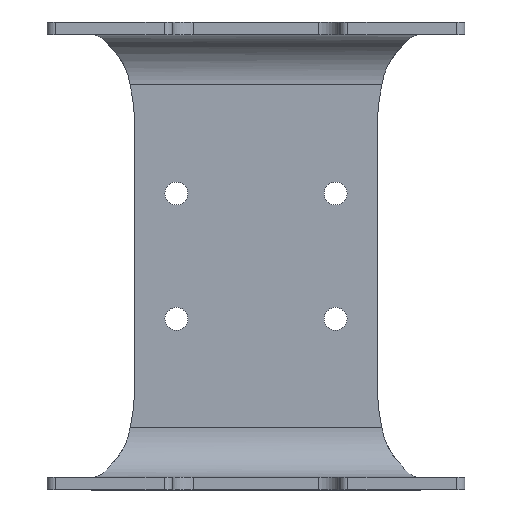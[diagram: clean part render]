
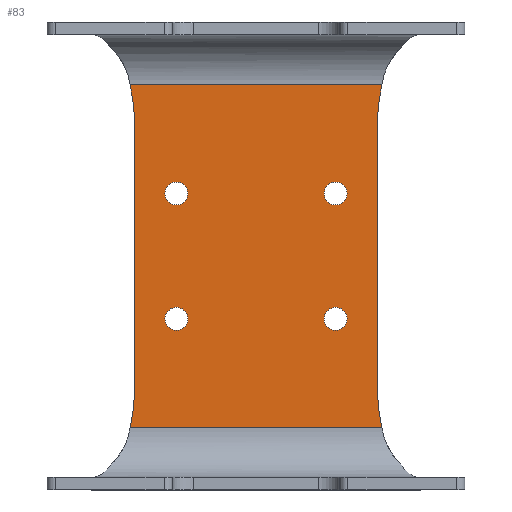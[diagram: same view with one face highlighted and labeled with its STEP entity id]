
A CAD part, top view. The second image highlights one B-rep face of the part: STEP entity #83.
In plain terms, the highlighted planar face has unit normal (0, 0, 1).
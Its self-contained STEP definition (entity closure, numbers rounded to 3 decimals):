
#83 = ADVANCED_FACE( '', ( #158, #159, #160, #161, #162 ), #163, .F. );
#158 = FACE_OUTER_BOUND( '', #294, .T. );
#159 = FACE_BOUND( '', #295, .T. );
#160 = FACE_BOUND( '', #296, .T. );
#161 = FACE_BOUND( '', #297, .T. );
#162 = FACE_BOUND( '', #298, .T. );
#163 = PLANE( '', #299 );
#294 = EDGE_LOOP( '', ( #486, #487, #488, #489, #490, #491, #492, #493 ) );
#295 = EDGE_LOOP( '', ( #494 ) );
#296 = EDGE_LOOP( '', ( #495 ) );
#297 = EDGE_LOOP( '', ( #496 ) );
#298 = EDGE_LOOP( '', ( #497 ) );
#299 = AXIS2_PLACEMENT_3D( '', #498, #499, #500 );
#486 = ORIENTED_EDGE( '', *, *, #975, .F. );
#487 = ORIENTED_EDGE( '', *, *, #987, .F. );
#488 = ORIENTED_EDGE( '', *, *, #988, .F. );
#489 = ORIENTED_EDGE( '', *, *, #989, .F. );
#490 = ORIENTED_EDGE( '', *, *, #967, .F. );
#491 = ORIENTED_EDGE( '', *, *, #990, .T. );
#492 = ORIENTED_EDGE( '', *, *, #955, .F. );
#493 = ORIENTED_EDGE( '', *, *, #978, .F. );
#494 = ORIENTED_EDGE( '', *, *, #991, .F. );
#495 = ORIENTED_EDGE( '', *, *, #992, .F. );
#496 = ORIENTED_EDGE( '', *, *, #993, .F. );
#497 = ORIENTED_EDGE( '', *, *, #994, .F. );
#498 = CARTESIAN_POINT( '', ( 50., 41., 3. ) );
#499 = DIRECTION( '', ( 0., 0., -1. ) );
#500 = DIRECTION( '', ( -1., 0., 0. ) );
#955 = EDGE_CURVE( '', #1136, #1138, #1139, .F. );
#967 = EDGE_CURVE( '', #1158, #1160, #1161, .F. );
#975 = EDGE_CURVE( '', #1173, #1175, #1176, .F. );
#978 = EDGE_CURVE( '', #1175, #1136, #1180, .T. );
#987 = EDGE_CURVE( '', #1195, #1173, #1196, .T. );
#988 = EDGE_CURVE( '', #1197, #1195, #1198, .F. );
#989 = EDGE_CURVE( '', #1160, #1197, #1199, .T. );
#990 = EDGE_CURVE( '', #1158, #1138, #1200, .T. );
#991 = EDGE_CURVE( '', #1201, #1201, #1202, .T. );
#992 = EDGE_CURVE( '', #1203, #1203, #1204, .T. );
#993 = EDGE_CURVE( '', #1205, #1205, #1206, .T. );
#994 = EDGE_CURVE( '', #1207, #1207, #1208, .T. );
#1136 = VERTEX_POINT( '', #1452 );
#1138 = VERTEX_POINT( '', #1455 );
#1139 = CIRCLE( '', #1456, 55. );
#1158 = VERTEX_POINT( '', #1493 );
#1160 = VERTEX_POINT( '', #1498 );
#1161 = CIRCLE( '', #1499, 55. );
#1173 = VERTEX_POINT( '', #1527 );
#1175 = VERTEX_POINT( '', #1532 );
#1176 = CIRCLE( '', #1533, 55. );
#1180 = LINE( '', #1538, #1539 );
#1195 = VERTEX_POINT( '', #1557 );
#1196 = LINE( '', #1558, #1559 );
#1197 = VERTEX_POINT( '', #1560 );
#1198 = CIRCLE( '', #1561, 55. );
#1199 = LINE( '', #1562, #1563 );
#1200 = LINE( '', #1564, #1565 );
#1201 = VERTEX_POINT( '', #1566 );
#1202 = CIRCLE( '', #1567, 2.75 );
#1203 = VERTEX_POINT( '', #1568 );
#1204 = CIRCLE( '', #1569, 2.75 );
#1205 = VERTEX_POINT( '', #1570 );
#1206 = CIRCLE( '', #1571, 2.75 );
#1207 = VERTEX_POINT( '', #1572 );
#1208 = CIRCLE( '', #1573, 2.75 );
#1452 = CARTESIAN_POINT( '', ( -29., 30., 3. ) );
#1455 = CARTESIAN_POINT( '', ( -30.111, 41., 3. ) );
#1456 = AXIS2_PLACEMENT_3D( '', #1916, #1917, #1918 );
#1493 = CARTESIAN_POINT( '', ( 30.111, 41., 3. ) );
#1498 = CARTESIAN_POINT( '', ( 29., 30., 3. ) );
#1499 = AXIS2_PLACEMENT_3D( '', #1928, #1929, #1930 );
#1527 = CARTESIAN_POINT( '', ( -30.111, -41., 3. ) );
#1532 = CARTESIAN_POINT( '', ( -29., -30., 3. ) );
#1533 = AXIS2_PLACEMENT_3D( '', #1939, #1940, #1941 );
#1538 = CARTESIAN_POINT( '', ( -29., 41., 3. ) );
#1539 = VECTOR( '', #1946, 1000. );
#1557 = CARTESIAN_POINT( '', ( 30.111, -41., 3. ) );
#1558 = CARTESIAN_POINT( '', ( 50., -41., 3. ) );
#1559 = VECTOR( '', #1965, 1000. );
#1560 = CARTESIAN_POINT( '', ( 29., -30., 3. ) );
#1561 = AXIS2_PLACEMENT_3D( '', #1966, #1967, #1968 );
#1562 = CARTESIAN_POINT( '', ( 29., 41., 3. ) );
#1563 = VECTOR( '', #1969, 1000. );
#1564 = CARTESIAN_POINT( '', ( 50., 41., 3. ) );
#1565 = VECTOR( '', #1970, 1000. );
#1566 = CARTESIAN_POINT( '', ( -16.3, -15., 3. ) );
#1567 = AXIS2_PLACEMENT_3D( '', #1971, #1972, #1973 );
#1568 = CARTESIAN_POINT( '', ( -16.3, 15., 3. ) );
#1569 = AXIS2_PLACEMENT_3D( '', #1974, #1975, #1976 );
#1570 = CARTESIAN_POINT( '', ( 21.8, -15., 3. ) );
#1571 = AXIS2_PLACEMENT_3D( '', #1977, #1978, #1979 );
#1572 = CARTESIAN_POINT( '', ( 21.8, 15., 3. ) );
#1573 = AXIS2_PLACEMENT_3D( '', #1980, #1981, #1982 );
#1916 = CARTESIAN_POINT( '', ( -84., 30., 3. ) );
#1917 = DIRECTION( '', ( 0., 0., -1. ) );
#1918 = DIRECTION( '', ( -1., 0., 0. ) );
#1928 = CARTESIAN_POINT( '', ( 84., 30., 3. ) );
#1929 = DIRECTION( '', ( 0., 0., -1. ) );
#1930 = DIRECTION( '', ( -1., 0., 0. ) );
#1939 = CARTESIAN_POINT( '', ( -84., -30., 3. ) );
#1940 = DIRECTION( '', ( 0., 0., -1. ) );
#1941 = DIRECTION( '', ( -1., 0., 0. ) );
#1946 = DIRECTION( '', ( 0., 1., 0. ) );
#1965 = DIRECTION( '', ( -1., 0., 0. ) );
#1966 = CARTESIAN_POINT( '', ( 84., -30., 3. ) );
#1967 = DIRECTION( '', ( 0., 0., -1. ) );
#1968 = DIRECTION( '', ( -1., 0., 0. ) );
#1969 = DIRECTION( '', ( 0., -1., 0. ) );
#1970 = DIRECTION( '', ( -1., 0., 0. ) );
#1971 = CARTESIAN_POINT( '', ( -19.05, -15., 3. ) );
#1972 = DIRECTION( '', ( 0., 0., 1. ) );
#1973 = DIRECTION( '', ( 1., 0., 0. ) );
#1974 = CARTESIAN_POINT( '', ( -19.05, 15., 3. ) );
#1975 = DIRECTION( '', ( 0., 0., 1. ) );
#1976 = DIRECTION( '', ( 1., 0., 0. ) );
#1977 = CARTESIAN_POINT( '', ( 19.05, -15., 3. ) );
#1978 = DIRECTION( '', ( 0., 0., 1. ) );
#1979 = DIRECTION( '', ( 1., 0., 0. ) );
#1980 = CARTESIAN_POINT( '', ( 19.05, 15., 3. ) );
#1981 = DIRECTION( '', ( 0., 0., 1. ) );
#1982 = DIRECTION( '', ( 1., 0., 0. ) );
